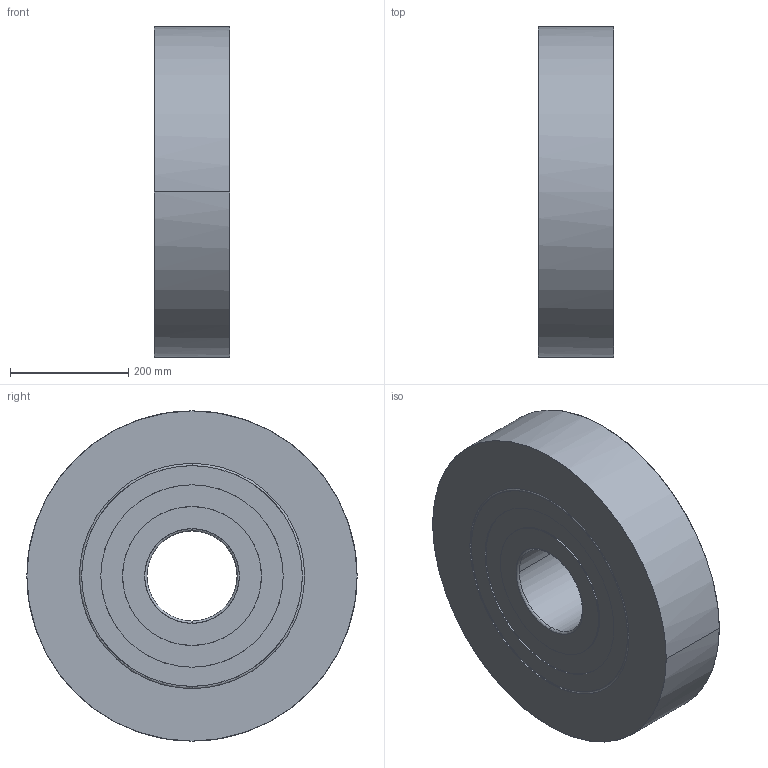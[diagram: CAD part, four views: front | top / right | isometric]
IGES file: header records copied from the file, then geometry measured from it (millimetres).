
Global section: native system: Kubotek KeyCreator; preprocessor: KCM Version 1.1.1442.0; author: KeyCreator User; organization: Self; date: 20170714.090543; units: inch
Bounding box: 127 x 558.8 x 558.8 mm (x, y, z)
Surface area: 759359.4 mm2 (no closed solid volume)
Topology: 0 solids, 0 shells, 32 faces, 208 edges, 208 vertices
Faces by surface type: bspline 32
